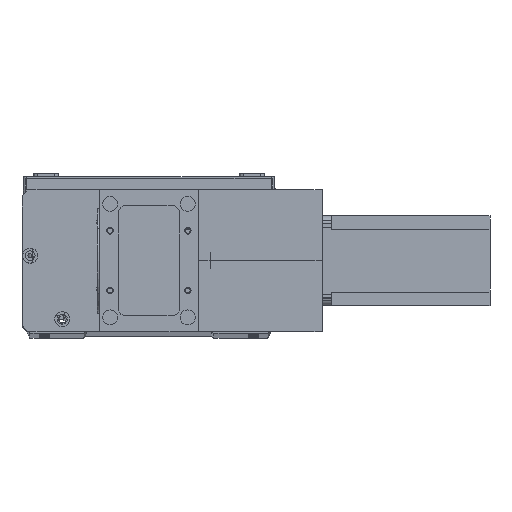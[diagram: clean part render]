
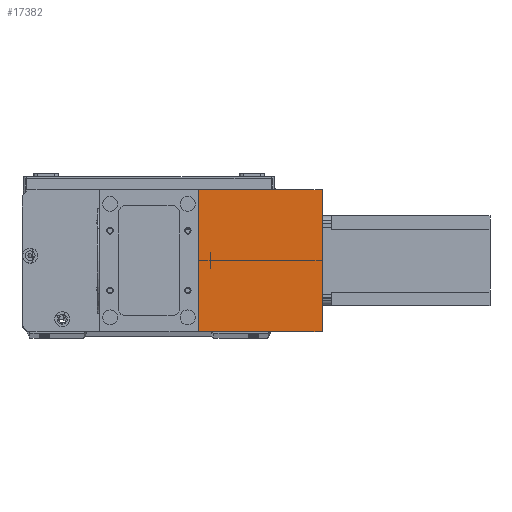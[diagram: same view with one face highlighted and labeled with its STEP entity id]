
A CAD part, top view. The second image highlights one B-rep face of the part: STEP entity #17382.
In plain terms, the highlighted planar face has unit normal (0, 0, 1) as drawn and (1, 0, 0) by its records, which use the part's own axes.
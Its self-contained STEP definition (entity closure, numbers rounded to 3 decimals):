
#1257 = VERTEX_POINT ( 'NONE', #15772 ) ;
#2079 = DIRECTION ( 'NONE',  ( 0., 0., 1. ) ) ;
#3419 = DIRECTION ( 'NONE',  ( 0., 1., 0. ) ) ;
#4768 = VECTOR ( 'NONE', #3419, 1000. ) ;
#4827 = LINE ( 'NONE', #8062, #11584 ) ;
#5138 = ORIENTED_EDGE ( 'NONE', *, *, #20118, .T. ) ;
#5215 = CARTESIAN_POINT ( 'NONE',  ( 82., 0., 83. ) ) ;
#5433 = CARTESIAN_POINT ( 'NONE',  ( 82., 0., 0. ) ) ;
#6603 = VECTOR ( 'NONE', #16450, 1000. ) ;
#6870 = VERTEX_POINT ( 'NONE', #29438 ) ;
#7269 = CARTESIAN_POINT ( 'NONE',  ( 82., 0., 0. ) ) ;
#7307 = DIRECTION ( 'NONE',  ( 0., 0., -1. ) ) ;
#7955 = VECTOR ( 'NONE', #7307, 1000. ) ;
#8062 = CARTESIAN_POINT ( 'NONE',  ( 82., 95., 83. ) ) ;
#9555 = CARTESIAN_POINT ( 'NONE',  ( 82., 0., 83. ) ) ;
#10350 = CARTESIAN_POINT ( 'NONE',  ( 82., 95., 0. ) ) ;
#11239 = PLANE ( 'NONE',  #15677 ) ;
#11584 = VECTOR ( 'NONE', #17187, 1000. ) ;
#12311 = FACE_OUTER_BOUND ( 'NONE', #24525, .T. ) ;
#13981 = LINE ( 'NONE', #9555, #7955 ) ;
#15677 = AXIS2_PLACEMENT_3D ( 'NONE', #24832, #15858, #2079 ) ;
#15772 = CARTESIAN_POINT ( 'NONE',  ( 82., 0., 83. ) ) ;
#15858 = DIRECTION ( 'NONE',  ( -1., 0., 0. ) ) ;
#16450 = DIRECTION ( 'NONE',  ( 0., 1., 0. ) ) ;
#16968 = LINE ( 'NONE', #5215, #4768 ) ;
#17187 = DIRECTION ( 'NONE',  ( 0., 0., -1. ) ) ;
#17382 = ADVANCED_FACE ( 'NONE', ( #12311 ), #11239, .F. ) ;
#18683 = VERTEX_POINT ( 'NONE', #10350 ) ;
#19755 = VERTEX_POINT ( 'NONE', #5433 ) ;
#20011 = ORIENTED_EDGE ( 'NONE', *, *, #28776, .F. ) ;
#20118 = EDGE_CURVE ( 'NONE', #1257, #19755, #13981, .T. ) ;
#23963 = ORIENTED_EDGE ( 'NONE', *, *, #25574, .T. ) ;
#24525 = EDGE_LOOP ( 'NONE', ( #23963, #20011, #27367, #5138 ) ) ;
#24804 = LINE ( 'NONE', #7269, #6603 ) ;
#24832 = CARTESIAN_POINT ( 'NONE',  ( 82., 0., 83. ) ) ;
#25574 = EDGE_CURVE ( 'NONE', #19755, #18683, #24804, .T. ) ;
#27367 = ORIENTED_EDGE ( 'NONE', *, *, #29696, .F. ) ;
#28776 = EDGE_CURVE ( 'NONE', #6870, #18683, #4827, .T. ) ;
#29438 = CARTESIAN_POINT ( 'NONE',  ( 82., 95., 83. ) ) ;
#29696 = EDGE_CURVE ( 'NONE', #1257, #6870, #16968, .T. ) ;
